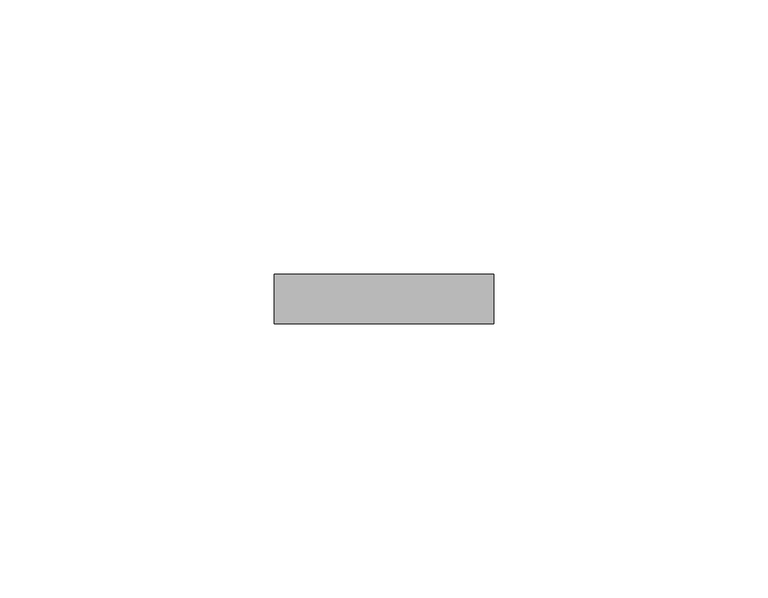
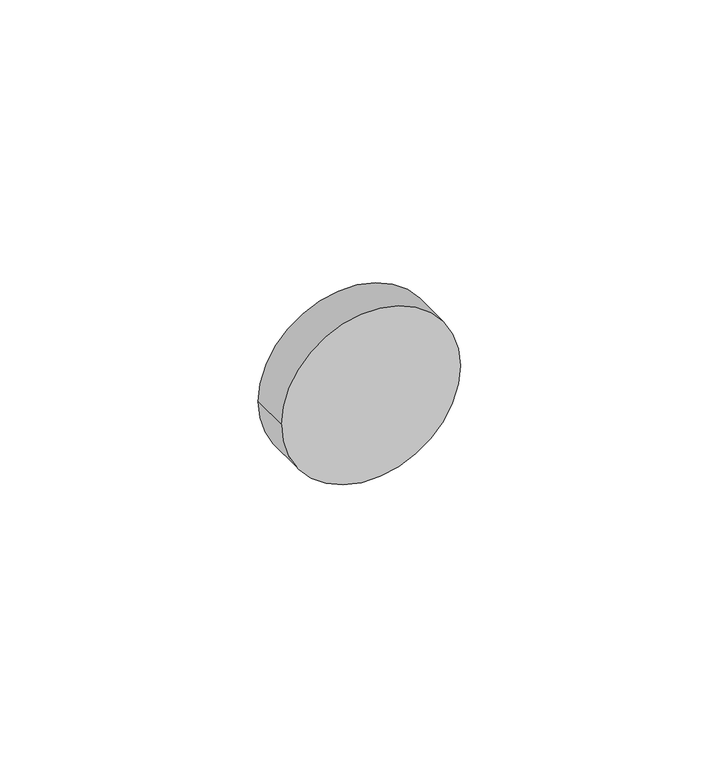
"""IFC4 building model written with IfcOpenShell, lengths in millimetres: proxy geometry, LINAK^DL5-DL6 GLIDE (40mm)."""

from ifc_helpers import new_model, si_unit, point, frame, origin, origin_2d, place, context, project, spatial, circle_curve, trimmed, segment, composite_curve, outline, extrude, source, transform, mapped, element, save


def generic_models_26597d47(model_context):
    return source(origin(), model_context, "Body", "SweptSolid", [
        extrude(outline(composite_curve([segment(trimmed(circle_curve(origin_2d(), 20.0), [point((0.0, 20.0))], [point((0.0, -20.0))], False, "CARTESIAN"), True, "CONTINUOUS"), segment(trimmed(circle_curve(origin_2d(), 20.0), [point((0.0, -20.0))], [point((0.0, 20.0))], False, "CARTESIAN"), True, "CONTINUOUS")], self_intersect=False)), frame((0.0, 0.0, 0.0), z_axis=(0.0, 1.0, 0.0), x_axis=(0.0, 0.0, 1.0)), (0.0, 0.0, 1.0), 9.0),
    ])


if __name__ == "__main__":
    model = new_model("IFC4")
    model_context = context("Model", 3, world=origin())
    ifc_project = project(units=[si_unit("LENGTHUNIT", "METRE", prefix="MILLI")], contexts=[model_context])
    site = spatial("IfcSite", under=ifc_project)
    building = spatial("IfcBuilding", under=site)
    placement = place(None, origin())
    generic_models_shape = generic_models_26597d47(model_context)
    element("IfcBuildingElementProxy", 1, Name="LINAK^DL5-DL6 GLIDE (40mm)", ObjectType="LINAK^DL5-DL6 GLIDE (40mm)", at=placement, inside=building, context=model_context, shape_type="MappedRepresentation", body=[
        mapped(generic_models_shape, transform((0.0, 0.0, 0.0), x_axis=(1.0, 0.0, 0.0), y_axis=(0.0, 1.0, 0.0), z_axis=(0.0, 0.0, 1.0))),
    ])
    save(model, "model.ifc")
